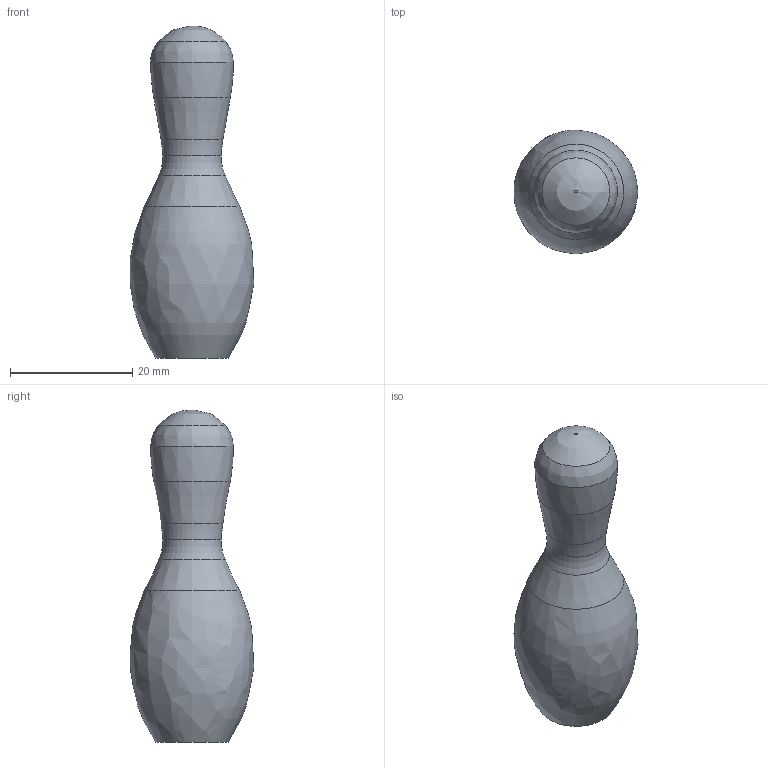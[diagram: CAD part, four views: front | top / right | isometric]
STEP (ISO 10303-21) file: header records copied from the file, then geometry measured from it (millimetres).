
FILE_DESCRIPTION(/* description */ (''),/* implementation_level */ '2;1');
FILE_NAME(/* name */ '/Users/jmac/Desktop/CAD Refresh/Bowling Pin/Bowling Pin.step',/* time_stamp */ '2022-09-22T13:37:47-06:00',/* author */ (''),/* organization */ (''),/* preprocessor_version */ 'ST-DEVELOPER v19',/* originating_system */ 'Autodesk Translation Framework v11.7.0.108',/* authorisation */ '');
FILE_SCHEMA (('AUTOMOTIVE_DESIGN { 1 0 10303 214 3 1 1 }'));
Length unit declared in the file: millimetre
Products named in the file (2): Bowling Pin_CAD Library; Single Pin
Assembly tree (1 placements, depth 2):
  Bowling Pin_CAD Library
    Single Pin
Bounding box: 20.27 x 20.27 x 54.4 mm (x, y, z)
Volume: 9768.6 mm3; surface area: 2767.2 mm2
Topology: 1 solids, 1 shells, 10 faces, 20 edges, 12 vertices
Faces by surface type: bspline 4, cone 2, torus 2, plane 2
Entity records: 427 total; most frequent: CARTESIAN_POINT 149, DIRECTION 56, ORIENTED_EDGE 40, AXIS2_PLACEMENT_3D 27, EDGE_CURVE 20, CIRCLE 18, VERTEX_POINT 12, FACE_OUTER_BOUND 10
